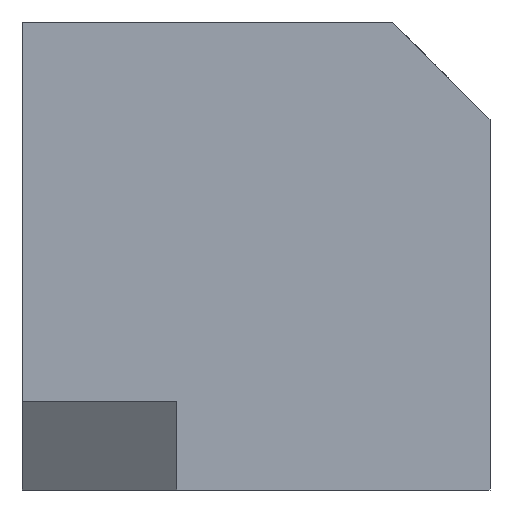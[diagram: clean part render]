
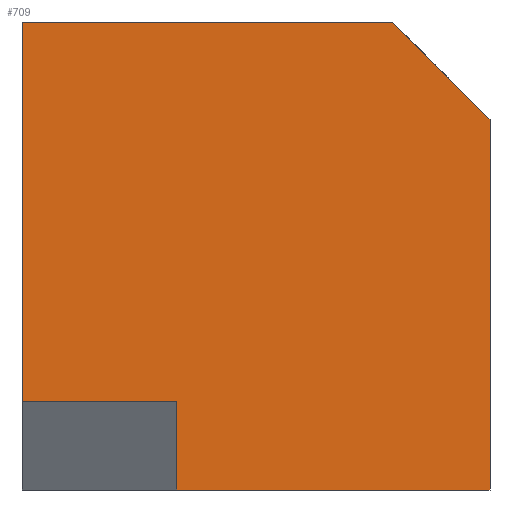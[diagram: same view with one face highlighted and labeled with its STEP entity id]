
A CAD part, front view. The second image highlights one B-rep face of the part: STEP entity #709.
In plain terms, the highlighted planar face has unit normal (0, -1, 0).
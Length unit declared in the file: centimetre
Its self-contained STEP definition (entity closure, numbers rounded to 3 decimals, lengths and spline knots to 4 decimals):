
#9 = ORIENTED_EDGE ( 'NONE', *, *, #259, .T. ) ;
#14 = CARTESIAN_POINT ( 'NONE',  ( 1000., 0., 1000. ) ) ;
#70 = CARTESIAN_POINT ( 'NONE',  ( 790.8934, 0., 1000. ) ) ;
#114 = ORIENTED_EDGE ( 'NONE', *, *, #892, .F. ) ;
#123 = ORIENTED_EDGE ( 'NONE', *, *, #617, .T. ) ;
#126 = LINE ( 'NONE', #450, #385 ) ;
#133 = DIRECTION ( 'NONE',  ( 1., 0., 0. ) ) ;
#139 = DIRECTION ( 'NONE',  ( 0., 0., -1. ) ) ;
#143 = CARTESIAN_POINT ( 'NONE',  ( 1000., 0., 790.8934 ) ) ;
#144 = VERTEX_POINT ( 'NONE', #619 ) ;
#218 = VECTOR ( 'NONE', #258, 100. ) ;
#229 = LINE ( 'NONE', #630, #550 ) ;
#233 = VERTEX_POINT ( 'NONE', #562 ) ;
#236 = EDGE_LOOP ( 'NONE', ( #751, #478, #651, #9, #855, #123, #114 ) ) ;
#241 = DIRECTION ( 'NONE',  ( 0., 1., 0. ) ) ;
#242 = VECTOR ( 'NONE', #139, 100. ) ;
#258 = DIRECTION ( 'NONE',  ( -1., 0., 0. ) ) ;
#259 = EDGE_CURVE ( 'NONE', #325, #233, #126, .T. ) ;
#295 = FACE_OUTER_BOUND ( 'NONE', #236, .T. ) ;
#303 = CARTESIAN_POINT ( 'NONE',  ( 790.8934, 0., 1000. ) ) ;
#307 = DIRECTION ( 'NONE',  ( 0., 0., 1. ) ) ;
#320 = LINE ( 'NONE', #620, #218 ) ;
#325 = VERTEX_POINT ( 'NONE', #674 ) ;
#332 = VECTOR ( 'NONE', #133, 100. ) ;
#342 = DIRECTION ( 'NONE',  ( 0., 0., -1. ) ) ;
#347 = LINE ( 'NONE', #413, #242 ) ;
#375 = DIRECTION ( 'NONE',  ( -0.707, 0., 0.707 ) ) ;
#385 = VECTOR ( 'NONE', #728, 100. ) ;
#402 = VECTOR ( 'NONE', #342, 100. ) ;
#413 = CARTESIAN_POINT ( 'NONE',  ( 0., 0., 1000. ) ) ;
#419 = VERTEX_POINT ( 'NONE', #70 ) ;
#428 = DIRECTION ( 'NONE',  ( 0., 0., 1. ) ) ;
#434 = EDGE_CURVE ( 'NONE', #834, #512, #320, .T. ) ;
#440 = PLANE ( 'NONE',  #515 ) ;
#450 = CARTESIAN_POINT ( 'NONE',  ( 0., 0., 0. ) ) ;
#460 = LINE ( 'NONE', #823, #332 ) ;
#467 = VERTEX_POINT ( 'NONE', #143 ) ;
#478 = ORIENTED_EDGE ( 'NONE', *, *, #434, .F. ) ;
#505 = EDGE_CURVE ( 'NONE', #325, #834, #229, .T. ) ;
#512 = VERTEX_POINT ( 'NONE', #712 ) ;
#515 = AXIS2_PLACEMENT_3D ( 'NONE', #862, #241, #307 ) ;
#550 = VECTOR ( 'NONE', #428, 100. ) ;
#562 = CARTESIAN_POINT ( 'NONE',  ( 1000., 0., 0. ) ) ;
#572 = EDGE_CURVE ( 'NONE', #144, #512, #347, .T. ) ;
#588 = EDGE_CURVE ( 'NONE', #467, #233, #641, .T. ) ;
#617 = EDGE_CURVE ( 'NONE', #467, #419, #729, .T. ) ;
#619 = CARTESIAN_POINT ( 'NONE',  ( 0., 0., 1000. ) ) ;
#620 = CARTESIAN_POINT ( 'NONE',  ( 330.5878, 0., 189.1423 ) ) ;
#630 = CARTESIAN_POINT ( 'NONE',  ( 330.5878, 0., 189.1423 ) ) ;
#641 = LINE ( 'NONE', #14, #402 ) ;
#651 = ORIENTED_EDGE ( 'NONE', *, *, #505, .F. ) ;
#672 = VECTOR ( 'NONE', #375, 100. ) ;
#674 = CARTESIAN_POINT ( 'NONE',  ( 330.5878, 0., 0. ) ) ;
#709 = ADVANCED_FACE ( 'NONE', ( #295 ), #440, .F. ) ;
#712 = CARTESIAN_POINT ( 'NONE',  ( 0., 0., 189.1423 ) ) ;
#728 = DIRECTION ( 'NONE',  ( 1., 0., 0. ) ) ;
#729 = LINE ( 'NONE', #303, #672 ) ;
#744 = CARTESIAN_POINT ( 'NONE',  ( 330.5878, 0., 189.1423 ) ) ;
#751 = ORIENTED_EDGE ( 'NONE', *, *, #572, .T. ) ;
#823 = CARTESIAN_POINT ( 'NONE',  ( 0., 0., 1000. ) ) ;
#834 = VERTEX_POINT ( 'NONE', #744 ) ;
#855 = ORIENTED_EDGE ( 'NONE', *, *, #588, .F. ) ;
#862 = CARTESIAN_POINT ( 'NONE',  ( 0., 0., 1000. ) ) ;
#892 = EDGE_CURVE ( 'NONE', #144, #419, #460, .T. ) ;
